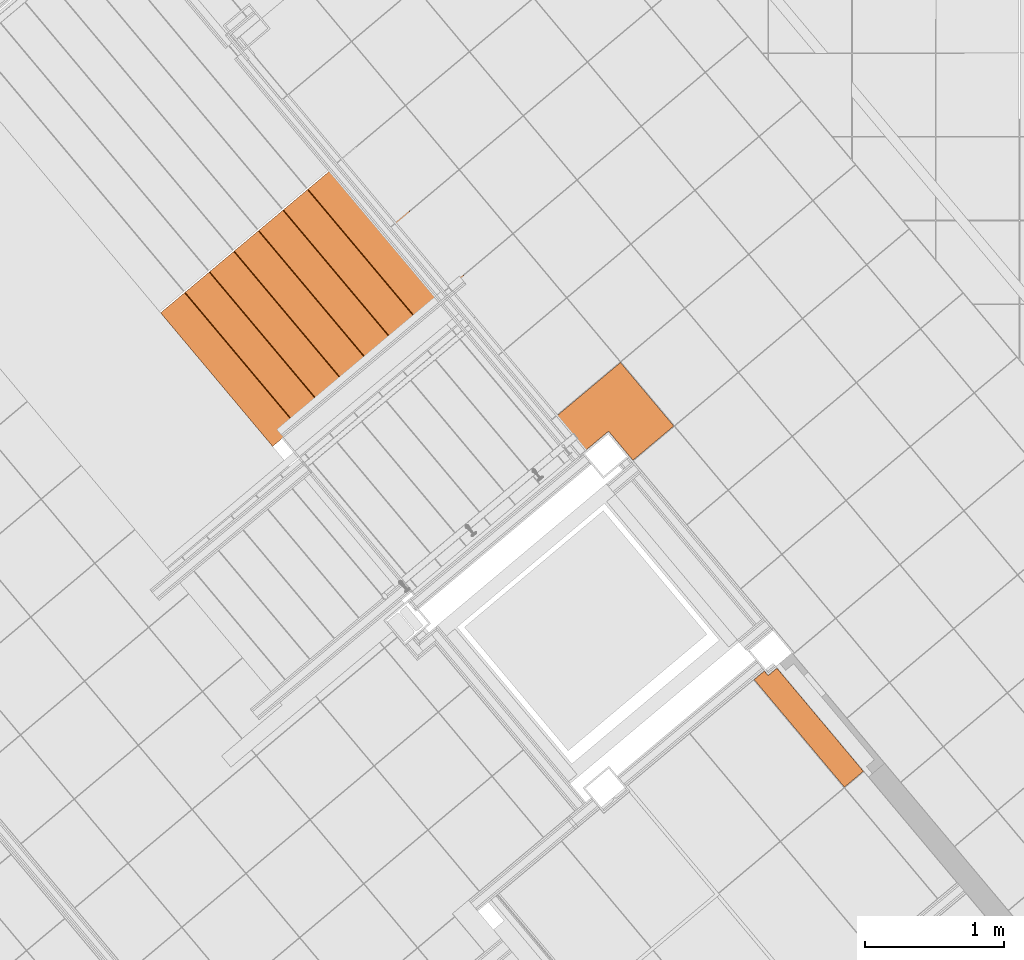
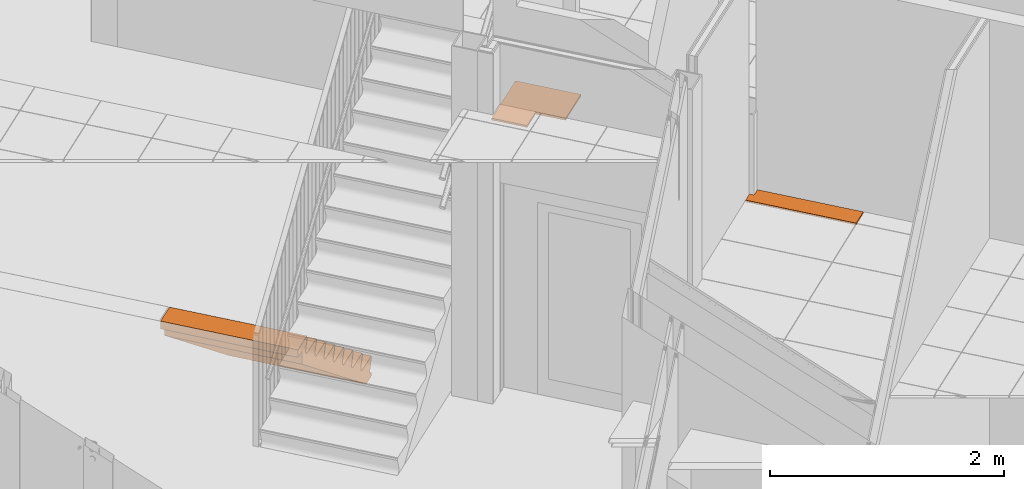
# One storey, part 318 of 338: 3 proxies, 2 elements without a shape of their own.
"""IFC2X3 building model written with IfcOpenShell, lengths in millimetres."""

from ifc_helpers import new_model, entity, si_unit, converted_unit, derived_unit, money_unit, direction, frame, origin_with_axes, place, context, subcontext, project, spatial, faceted_brep, material, type_object, element, aggregate, save


model = new_model("IFC2X3")

# Units and contexts
model_context = context("Model", 3, precision=0.01, world=origin_with_axes(), true_north=direction((0.0, 1.0)))
plan_context = context("Plan", 3, precision=0.01, world=origin_with_axes(), true_north=direction((0.0, 1.0)))
body_context = subcontext(model_context, "Body", "Model", "MODEL_VIEW")
ifc_project = project(units=[si_unit("LENGTHUNIT", "METRE", prefix="MILLI"), si_unit("AREAUNIT", "SQUARE_METRE"), si_unit("VOLUMEUNIT", "CUBIC_METRE"), converted_unit("PLANEANGLEUNIT", "DEGREE", entity("IfcPlaneAngleMeasure", 0.0174532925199), si_unit("PLANEANGLEUNIT", "RADIAN"), dimensions=[0, 0, 0, 0, 0, 0, 0]), money_unit("EUR"), converted_unit("TIMEUNIT", "Year", entity("IfcTimeMeasure", 31556926.0), si_unit("TIMEUNIT", "SECOND"), dimensions=[0, 0, 1, 0, 0, 0, 0]), si_unit("MASSUNIT", "GRAM", prefix="KILO"), si_unit("THERMODYNAMICTEMPERATUREUNIT", "DEGREE_CELSIUS"), si_unit("LUMINOUSINTENSITYUNIT", "LUMEN"), si_unit("ENERGYUNIT", "JOULE", prefix="MEGA"), derived_unit("THERMALCONDUCTANCEUNIT", [(si_unit("POWERUNIT", "WATT"), 1), (si_unit("LENGTHUNIT", "METRE"), -1), (si_unit("THERMODYNAMICTEMPERATUREUNIT", "KELVIN"), -1)]), derived_unit("SPECIFICHEATCAPACITYUNIT", [(si_unit("ENERGYUNIT", "JOULE"), 1), (si_unit("MASSUNIT", "GRAM", prefix="KILO"), -1), (si_unit("THERMODYNAMICTEMPERATUREUNIT", "KELVIN"), -1)]), derived_unit("MASSDENSITYUNIT", [(si_unit("MASSUNIT", "GRAM", prefix="KILO"), 1), (si_unit("VOLUMEUNIT", "CUBIC_METRE"), -1)])], contexts=[model_context, plan_context])

# Site, building, storey
site_placement = place(None, origin_with_axes())
site = spatial("IfcSite", under=ifc_project, at=site_placement, Name="Fortuinstraat Woensdrecht", CompositionType="ELEMENT")
building_placement = place(site_placement, origin_with_axes())
building = spatial("IfcBuilding", under=site, at=building_placement, Name="IKC Fortuna", CompositionType="ELEMENT")
storey_placement = place(building_placement, origin_with_axes())
storey = spatial("IfcBuildingStorey", under=building, at=storey_placement, Name="00 begane grond", CompositionType="ELEMENT", Elevation=0.0)

# Covering, proxy
covering_type = type_object("IfcCoveringType", Name="Curtain Wall Type", PredefinedType="CEILING")
covering_1_placement = place(storey_placement, frame((26804.4884552, -1724.43837499, 3010.0), z_axis=(0.0, 0.0, 1.0), x_axis=(1.0, 0.0, 0.0)))
covering_1 = element("IfcCovering", 1, at=covering_1_placement, inside=storey, type_object=covering_type, Name="45_Plafondafwerking_P04", PredefinedType="CEILING")
ifc_material = material(Name="Gipsplaat")
building_element_proxy_type_1 = type_object("IfcBuildingElementProxyType", Name="Distinct Panel 600 x 327 x 20", PredefinedType="NOTDEFINED")
proxy_1_placement = place(covering_1_placement, frame((-4772.79926893, 3775.76728654, 0.0), z_axis=(0.0, 0.0, 1.0), x_axis=(1.0, 0.0, 0.0)))
proxy_1 = element("IfcBuildingElementProxy", 2, at=proxy_1_placement, type_object=building_element_proxy_type_1, material=ifc_material, Name="__Panel-D", context=body_context, shape_type="Brep", body=[
    faceted_brep([(53.1541442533, 444.84749536, -10.0), (-402.642368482, 62.3889478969, -10.0), (-402.642368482, 62.3889478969, 9.99999999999), (53.1541442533, 444.84749536, 9.99999999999), (435.612704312, -10.9490047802, -10.0), (142.614046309, -256.803987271, -10.0), (-32.6621771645, -47.9178592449, -10.0), (-195.460031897, -184.521424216, -10.0), (-195.460031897, -184.521424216, 9.99999999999), (-32.6621771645, -47.9178592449, 9.99999999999), (142.614046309, -256.803987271, 9.99999999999), (435.612704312, -10.9490047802, 9.99999999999)], [[[0, 1, 2, 3]], [[0, 4, 5, 6, 7, 1]], [[1, 7, 8, 2]], [[3, 2, 8, 9, 10, 11]], [[4, 0, 3, 11]], [[5, 4, 11, 10]], [[6, 5, 10, 9]], [[7, 6, 9, 8]]]),
])
aggregate(covering_1, [proxy_1])

covering_2_placement = place(storey_placement, frame((21527.1932838, -1706.9023883, 2770.0), z_axis=(0.0, 0.0, 1.0), x_axis=(1.0, 0.0, 0.0)))
covering_2 = element("IfcCovering", 3, at=covering_2_placement, inside=storey, type_object=covering_type, Name="45_Plafondafwerking_P02a", PredefinedType="CEILING")
building_element_proxy_type_2 = type_object("IfcBuildingElementProxyType", Name="Distinct Panel 182 x 969 x 20", PredefinedType="NOTDEFINED")
proxy_2_placement = place(covering_2_placement, frame((1810.48754374, 1720.86229672, 38.6399753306), z_axis=(0.0, 0.0, 1.0), x_axis=(0.642787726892, -0.766044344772, 0.0)))
proxy_2 = element("IfcBuildingElementProxy", 4, at=proxy_2_placement, type_object=building_element_proxy_type_2, material=ifc_material, Name="__Panel-D", context=body_context, shape_type="Brep", body=[
    faceted_brep([(-306.495225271, 85.9803420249, -8.67727949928), (-306.495225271, 85.6724230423, 11.3203500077), (657.97682449, 85.6724186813, 11.3203499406), (657.97682449, 85.980337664, -8.67727956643), (-306.49521304, 3.48041512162, -9.947594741), (-306.49521304, 3.17249613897, 10.050034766), (-348.981601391, 3.17250151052, 10.0500348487), (-348.981622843, -91.8064959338, 8.58756969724), (657.97682349, -91.8064958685, 8.58756969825), (657.97682349, -91.4985768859, -11.4100598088), (-348.981622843, -91.4985769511, -11.4100598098), (-348.981601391, 3.48042049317, -9.94759465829)], [[[0, 1, 2, 3]], [[4, 5, 1, 0]], [[1, 5, 6, 7, 8, 2]], [[3, 2, 8, 9]], [[0, 3, 9, 10, 11, 4]], [[11, 6, 5, 4]], [[10, 7, 6, 11]], [[9, 8, 7, 10]]]),
])
aggregate(covering_2, [proxy_2])

# Proxy
building_element_proxy_type_3 = type_object("IfcBuildingElementProxyType", Name="Trapelement beton 25 KM", PredefinedType="NOTDEFINED")
proxy_3_placement = place(storey_placement, frame((20196.7322234, 4034.63435725, 0.0), z_axis=(0.0, 0.0, 1.0), x_axis=(-0.766044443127, -0.642787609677, 0.0)))
element("IfcBuildingElementProxy", 5, at=proxy_3_placement, inside=storey, type_object=building_element_proxy_type_3, Name="0_Building Element Proxy_T1.2", context=body_context, shape_type="Brep", body=[
    faceted_brep([(0.0, 0.0, -30.0), (0.0, 0.0, 0.0), (0.0, 1250.0, 0.0), (0.0, 1250.0, -30.0), (3.49953368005, 0.0, -7.71975380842e-06), (136.419515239, 0.0, -30.0), (296.846819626, 0.0, 96.423690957), (230.0, 0.0, 181.25), (10.0, 0.0, 181.25), (6.17316567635, 0.0, 180.488795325), (2.92893218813, 0.0, 178.321067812), (0.761204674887, 0.0, 175.076834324), (0.0, 0.0, 171.25), (0.0, 0.0, 156.95), (37.59, 0.0, 53.68), (38.7845888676, 0.0, 50.3920369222), (39.9999489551, 0.0, 43.4992984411), (39.9999335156, 0.0, 36.500231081), (38.7845430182, 0.0, 29.6074979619), (36.3907064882, 0.0, 23.0305312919), (32.8911594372, 0.0, 16.969168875), (28.3922338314, 0.0, 11.6075821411), (23.0306272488, 0.0, 7.10868019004), (16.9692493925, 0.0, 3.609159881), (10.3922721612, 0.0, 1.21535236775), (3.49953368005, 1250.0, -7.71975389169e-06), (0.0, 1250.0, 156.95), (0.0, 1250.0, 171.25), (0.761204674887, 1250.0, 175.076834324), (2.92893218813, 1250.0, 178.321067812), (6.17316567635, 1250.0, 180.488795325), (10.0, 1250.0, 181.25), (230.0, 1250.0, 181.25), (296.846819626, 1250.0, 96.423690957), (136.419515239, 1250.0, -30.0), (10.3922721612, 1250.0, 1.21535236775), (16.9692493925, 1250.0, 3.609159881), (23.0306272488, 1250.0, 7.10868019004), (28.3922338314, 1250.0, 11.6075821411), (32.8911594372, 1250.0, 16.969168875), (36.3907064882, 1250.0, 23.0305312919), (38.7845430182, 1250.0, 29.6074979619), (39.9999335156, 1250.0, 36.500231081), (39.9999489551, 1250.0, 43.4992984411), (38.7845888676, 1250.0, 50.3920369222), (37.59, 1250.0, 53.68)], [[[0, 1, 2, 3]], [[4, 1, 0, 5, 6, 7, 8, 9, 10, 11, 12, 13, 14, 15, 16, 17, 18, 19, 20, 21, 22, 23, 24]], [[1, 4, 25, 2]], [[26, 27, 28, 29, 30, 31, 32, 33, 34, 3, 2, 25, 35, 36, 37, 38, 39, 40, 41, 42, 43, 44, 45]], [[0, 3, 34, 5]], [[6, 5, 34, 33]], [[7, 6, 33, 32]], [[8, 7, 32, 31]], [[9, 8, 31, 30]], [[29, 10, 9, 30]], [[11, 10, 29, 28]], [[12, 11, 28, 27]], [[13, 12, 27, 26]], [[13, 26, 45, 14]], [[15, 14, 45, 44]], [[16, 15, 44, 43]], [[17, 16, 43, 42]], [[18, 17, 42, 41]], [[19, 18, 41, 40]], [[20, 19, 40, 39]], [[21, 20, 39, 38]], [[22, 21, 38, 37]], [[23, 22, 37, 36]], [[24, 23, 36, 35]], [[25, 4, 24, 35]]]),
    faceted_brep([(460.0, 1250.0, 362.5), (240.0, 1250.0, 362.5), (240.0, 0.0, 362.5), (460.0, 0.0, 362.5), (526.846819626, 1250.0, 277.673690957), (296.846819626, 1250.0, 96.423690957), (230.0, 1250.0, 181.25), (233.49953368, 1250.0, 181.24999228), (240.392272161, 1250.0, 182.465352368), (246.969249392, 1250.0, 184.859159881), (253.030627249, 1250.0, 188.35868019), (258.392233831, 1250.0, 192.857582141), (261.225007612, 1250.0, 196.25), (262.891159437, 1250.0, 198.219168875), (266.390706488, 1250.0, 204.280531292), (268.784543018, 1250.0, 210.857497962), (269.999933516, 1250.0, 217.750231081), (269.999948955, 1250.0, 224.749298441), (268.784588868, 1250.0, 231.642036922), (267.59, 1250.0, 234.93), (230.0, 1250.0, 338.2), (230.0, 1250.0, 352.5), (230.761204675, 1250.0, 356.326834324), (232.928932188, 1250.0, 359.571067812), (236.173165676, 1250.0, 361.738795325), (236.173165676, 0.0, 361.738795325), (232.928932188, 0.0, 359.571067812), (230.761204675, 0.0, 356.326834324), (230.0, 0.0, 352.5), (230.0, 0.0, 338.2), (267.59, 0.0, 234.93), (268.784588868, 0.0, 231.642036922), (269.999948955, 0.0, 224.749298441), (269.999933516, 0.0, 217.750231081), (268.784543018, 0.0, 210.857497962), (266.390706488, 0.0, 204.280531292), (262.891159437, 0.0, 198.219168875), (261.225007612, 0.0, 196.25), (258.392233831, 0.0, 192.857582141), (253.030627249, 0.0, 188.35868019), (246.969249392, 0.0, 184.859159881), (240.392272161, 0.0, 182.465352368), (233.49953368, 0.0, 181.24999228), (230.0, 0.0, 181.25), (296.846819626, 0.0, 96.423690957), (526.846819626, 0.0, 277.673690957)], [[[0, 1, 2, 3]], [[0, 4, 5, 6, 7, 8, 9, 10, 11, 12, 13, 14, 15, 16, 17, 18, 19, 20, 21, 22, 23, 24, 1]], [[1, 24, 25, 2]], [[3, 2, 25, 26, 27, 28, 29, 30, 31, 32, 33, 34, 35, 36, 37, 38, 39, 40, 41, 42, 43, 44, 45]], [[4, 0, 3, 45]], [[5, 4, 45, 44]], [[6, 5, 44, 43]], [[7, 6, 43, 42]], [[8, 7, 42, 41]], [[9, 8, 41, 40]], [[10, 9, 40, 39]], [[11, 10, 39, 38]], [[12, 11, 38, 37]], [[13, 12, 37, 36]], [[14, 13, 36, 35]], [[15, 14, 35, 34]], [[16, 15, 34, 33]], [[17, 16, 33, 32]], [[18, 17, 32, 31]], [[19, 18, 31, 30]], [[20, 19, 30, 29]], [[21, 20, 29, 28]], [[22, 21, 28, 27]], [[23, 22, 27, 26]], [[24, 23, 26, 25]]]),
    faceted_brep([(690.0, 1250.0, 543.75), (470.0, 1250.0, 543.75), (470.0, 0.0, 543.75), (690.0, 0.0, 543.75), (756.846819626, 1250.0, 458.923690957), (526.846819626, 1250.0, 277.673690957), (460.0, 1250.0, 362.5), (463.49953368, 1250.0, 362.49999228), (470.392272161, 1250.0, 363.715352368), (476.969249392, 1250.0, 366.109159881), (483.030627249, 1250.0, 369.60868019), (488.392233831, 1250.0, 374.107582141), (491.225007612, 1250.0, 377.5), (492.891159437, 1250.0, 379.469168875), (496.390706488, 1250.0, 385.530531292), (498.784543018, 1250.0, 392.107497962), (499.999933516, 1250.0, 399.000231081), (499.999948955, 1250.0, 405.999298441), (498.784588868, 1250.0, 412.892036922), (497.59, 1250.0, 416.18), (460.0, 1250.0, 519.45), (460.0, 1250.0, 533.75), (460.761204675, 1250.0, 537.576834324), (462.928932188, 1250.0, 540.821067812), (466.173165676, 1250.0, 542.988795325), (466.173165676, 0.0, 542.988795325), (462.928932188, 0.0, 540.821067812), (460.761204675, 0.0, 537.576834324), (460.0, 0.0, 533.75), (460.0, 0.0, 519.45), (497.59, 0.0, 416.18), (498.784588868, 0.0, 412.892036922), (499.999948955, 0.0, 405.999298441), (499.999933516, 0.0, 399.000231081), (498.784543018, 0.0, 392.107497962), (496.390706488, 0.0, 385.530531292), (492.891159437, 0.0, 379.469168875), (491.225007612, 0.0, 377.5), (488.392233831, 0.0, 374.107582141), (483.030627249, 0.0, 369.60868019), (476.969249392, 0.0, 366.109159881), (470.392272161, 0.0, 363.715352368), (463.49953368, 0.0, 362.49999228), (460.0, 0.0, 362.5), (526.846819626, 0.0, 277.673690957), (756.846819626, 0.0, 458.923690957)], [[[0, 1, 2, 3]], [[0, 4, 5, 6, 7, 8, 9, 10, 11, 12, 13, 14, 15, 16, 17, 18, 19, 20, 21, 22, 23, 24, 1]], [[1, 24, 25, 2]], [[3, 2, 25, 26, 27, 28, 29, 30, 31, 32, 33, 34, 35, 36, 37, 38, 39, 40, 41, 42, 43, 44, 45]], [[4, 0, 3, 45]], [[5, 4, 45, 44]], [[6, 5, 44, 43]], [[7, 6, 43, 42]], [[8, 7, 42, 41]], [[9, 8, 41, 40]], [[10, 9, 40, 39]], [[11, 10, 39, 38]], [[12, 11, 38, 37]], [[13, 12, 37, 36]], [[14, 13, 36, 35]], [[15, 14, 35, 34]], [[16, 15, 34, 33]], [[17, 16, 33, 32]], [[18, 17, 32, 31]], [[19, 18, 31, 30]], [[20, 19, 30, 29]], [[21, 20, 29, 28]], [[22, 21, 28, 27]], [[23, 22, 27, 26]], [[24, 23, 26, 25]]]),
    faceted_brep([(920.0, 1250.0, 725.0), (700.0, 1250.0, 725.0), (700.0, 0.0, 725.0), (920.0, 0.0, 725.0), (986.846819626, 1250.0, 640.173690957), (756.846819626, 1250.0, 458.923690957), (690.0, 1250.0, 543.75), (693.49953368, 1250.0, 543.74999228), (700.392272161, 1250.0, 544.965352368), (706.969249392, 1250.0, 547.359159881), (713.030627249, 1250.0, 550.85868019), (718.392233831, 1250.0, 555.357582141), (721.225007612, 1250.0, 558.75), (722.891159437, 1250.0, 560.719168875), (726.390706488, 1250.0, 566.780531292), (728.784543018, 1250.0, 573.357497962), (729.999933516, 1250.0, 580.250231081), (729.999948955, 1250.0, 587.249298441), (728.784588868, 1250.0, 594.142036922), (727.59, 1250.0, 597.43), (690.0, 1250.0, 700.7), (690.0, 1250.0, 715.0), (690.761204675, 1250.0, 718.826834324), (692.928932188, 1250.0, 722.071067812), (696.173165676, 1250.0, 724.238795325), (696.173165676, 0.0, 724.238795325), (692.928932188, 0.0, 722.071067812), (690.761204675, 0.0, 718.826834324), (690.0, 0.0, 715.0), (690.0, 0.0, 700.7), (727.59, 0.0, 597.43), (728.784588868, 0.0, 594.142036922), (729.999948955, 0.0, 587.249298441), (729.999933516, 0.0, 580.250231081), (728.784543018, 0.0, 573.357497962), (726.390706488, 0.0, 566.780531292), (722.891159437, 0.0, 560.719168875), (721.225007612, 0.0, 558.75), (718.392233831, 0.0, 555.357582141), (713.030627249, 0.0, 550.85868019), (706.969249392, 0.0, 547.359159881), (700.392272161, 0.0, 544.965352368), (693.49953368, 0.0, 543.74999228), (690.0, 0.0, 543.75), (756.846819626, 0.0, 458.923690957), (986.846819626, 0.0, 640.173690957)], [[[0, 1, 2, 3]], [[0, 4, 5, 6, 7, 8, 9, 10, 11, 12, 13, 14, 15, 16, 17, 18, 19, 20, 21, 22, 23, 24, 1]], [[1, 24, 25, 2]], [[3, 2, 25, 26, 27, 28, 29, 30, 31, 32, 33, 34, 35, 36, 37, 38, 39, 40, 41, 42, 43, 44, 45]], [[4, 0, 3, 45]], [[5, 4, 45, 44]], [[6, 5, 44, 43]], [[7, 6, 43, 42]], [[8, 7, 42, 41]], [[9, 8, 41, 40]], [[10, 9, 40, 39]], [[11, 10, 39, 38]], [[12, 11, 38, 37]], [[13, 12, 37, 36]], [[14, 13, 36, 35]], [[15, 14, 35, 34]], [[16, 15, 34, 33]], [[17, 16, 33, 32]], [[18, 17, 32, 31]], [[19, 18, 31, 30]], [[20, 19, 30, 29]], [[21, 20, 29, 28]], [[22, 21, 28, 27]], [[23, 22, 27, 26]], [[24, 23, 26, 25]]]),
    faceted_brep([(1150.0, 1250.0, 906.25), (930.0, 1250.0, 906.25), (930.0, 0.0, 906.25), (1150.0, 0.0, 906.25), (1216.84681963, 1250.0, 821.423690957), (986.846819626, 1250.0, 640.173690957), (920.0, 1250.0, 725.0), (923.49953368, 1250.0, 724.99999228), (930.392272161, 1250.0, 726.215352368), (936.969249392, 1250.0, 728.609159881), (943.030627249, 1250.0, 732.10868019), (948.392233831, 1250.0, 736.607582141), (951.225007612, 1250.0, 740.0), (952.891159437, 1250.0, 741.969168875), (956.390706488, 1250.0, 748.030531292), (958.784543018, 1250.0, 754.607497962), (959.999933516, 1250.0, 761.500231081), (959.999948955, 1250.0, 768.499298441), (958.784588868, 1250.0, 775.392036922), (957.59, 1250.0, 778.68), (920.0, 1250.0, 881.95), (920.0, 1250.0, 896.25), (920.761204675, 1250.0, 900.076834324), (922.928932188, 1250.0, 903.321067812), (926.173165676, 1250.0, 905.488795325), (926.173165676, 0.0, 905.488795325), (922.928932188, 0.0, 903.321067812), (920.761204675, 0.0, 900.076834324), (920.0, 0.0, 896.25), (920.0, 0.0, 881.95), (957.59, 0.0, 778.68), (958.784588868, 0.0, 775.392036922), (959.999948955, 0.0, 768.499298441), (959.999933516, 0.0, 761.500231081), (958.784543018, 0.0, 754.607497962), (956.390706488, 0.0, 748.030531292), (952.891159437, 0.0, 741.969168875), (951.225007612, 0.0, 740.0), (948.392233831, 0.0, 736.607582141), (943.030627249, 0.0, 732.10868019), (936.969249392, 0.0, 728.609159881), (930.392272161, 0.0, 726.215352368), (923.49953368, 0.0, 724.99999228), (920.0, 0.0, 725.0), (986.846819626, 0.0, 640.173690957), (1216.84681963, 0.0, 821.423690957)], [[[0, 1, 2, 3]], [[0, 4, 5, 6, 7, 8, 9, 10, 11, 12, 13, 14, 15, 16, 17, 18, 19, 20, 21, 22, 23, 24, 1]], [[1, 24, 25, 2]], [[3, 2, 25, 26, 27, 28, 29, 30, 31, 32, 33, 34, 35, 36, 37, 38, 39, 40, 41, 42, 43, 44, 45]], [[4, 0, 3, 45]], [[5, 4, 45, 44]], [[6, 5, 44, 43]], [[7, 6, 43, 42]], [[8, 7, 42, 41]], [[9, 8, 41, 40]], [[10, 9, 40, 39]], [[11, 10, 39, 38]], [[12, 11, 38, 37]], [[13, 12, 37, 36]], [[14, 13, 36, 35]], [[15, 14, 35, 34]], [[16, 15, 34, 33]], [[17, 16, 33, 32]], [[18, 17, 32, 31]], [[19, 18, 31, 30]], [[20, 19, 30, 29]], [[21, 20, 29, 28]], [[22, 21, 28, 27]], [[23, 22, 27, 26]], [[24, 23, 26, 25]]]),
    faceted_brep([(1380.0, 1250.0, 1087.5), (1160.0, 1250.0, 1087.5), (1160.0, 0.0, 1087.5), (1380.0, 0.0, 1087.5), (1446.84681963, 1250.0, 1002.67369096), (1216.84681963, 1250.0, 821.423690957), (1150.0, 1250.0, 906.25), (1153.49953368, 1250.0, 906.24999228), (1160.39227216, 1250.0, 907.465352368), (1166.96924939, 1250.0, 909.859159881), (1173.03062725, 1250.0, 913.35868019), (1178.39223383, 1250.0, 917.857582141), (1181.22500761, 1250.0, 921.25), (1182.89115944, 1250.0, 923.219168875), (1186.39070649, 1250.0, 929.280531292), (1188.78454302, 1250.0, 935.857497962), (1189.99993352, 1250.0, 942.750231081), (1189.99994896, 1250.0, 949.749298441), (1188.78458887, 1250.0, 956.642036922), (1187.59, 1250.0, 959.93), (1150.0, 1250.0, 1063.2), (1150.0, 1250.0, 1077.5), (1150.76120467, 1250.0, 1081.32683432), (1152.92893219, 1250.0, 1084.57106781), (1156.17316568, 1250.0, 1086.73879533), (1156.17316568, 0.0, 1086.73879533), (1152.92893219, 0.0, 1084.57106781), (1150.76120467, 0.0, 1081.32683432), (1150.0, 0.0, 1077.5), (1150.0, 0.0, 1063.2), (1187.59, 0.0, 959.93), (1188.78458887, 0.0, 956.642036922), (1189.99994896, 0.0, 949.749298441), (1189.99993352, 0.0, 942.750231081), (1188.78454302, 0.0, 935.857497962), (1186.39070649, 0.0, 929.280531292), (1182.89115944, 0.0, 923.219168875), (1181.22500761, 0.0, 921.25), (1178.39223383, 0.0, 917.857582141), (1173.03062725, 0.0, 913.35868019), (1166.96924939, 0.0, 909.859159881), (1160.39227216, 0.0, 907.465352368), (1153.49953368, 0.0, 906.24999228), (1150.0, 0.0, 906.25), (1216.84681963, 0.0, 821.423690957), (1446.84681963, 0.0, 1002.67369096)], [[[0, 1, 2, 3]], [[0, 4, 5, 6, 7, 8, 9, 10, 11, 12, 13, 14, 15, 16, 17, 18, 19, 20, 21, 22, 23, 24, 1]], [[1, 24, 25, 2]], [[3, 2, 25, 26, 27, 28, 29, 30, 31, 32, 33, 34, 35, 36, 37, 38, 39, 40, 41, 42, 43, 44, 45]], [[4, 0, 3, 45]], [[5, 4, 45, 44]], [[6, 5, 44, 43]], [[7, 6, 43, 42]], [[8, 7, 42, 41]], [[9, 8, 41, 40]], [[10, 9, 40, 39]], [[11, 10, 39, 38]], [[12, 11, 38, 37]], [[13, 12, 37, 36]], [[14, 13, 36, 35]], [[15, 14, 35, 34]], [[16, 15, 34, 33]], [[17, 16, 33, 32]], [[18, 17, 32, 31]], [[19, 18, 31, 30]], [[20, 19, 30, 29]], [[21, 20, 29, 28]], [[22, 21, 28, 27]], [[23, 22, 27, 26]], [[24, 23, 26, 25]]]),
    faceted_brep([(1610.0, 1250.0, 1268.75), (1390.0, 1250.0, 1268.75), (1390.0, 0.0, 1268.75), (1610.0, 0.0, 1268.75), (1676.84681963, 1250.0, 1183.92369096), (1446.84681963, 1250.0, 1002.67369096), (1380.0, 1250.0, 1087.5), (1383.49953368, 1250.0, 1087.49999228), (1390.39227216, 1250.0, 1088.71535237), (1396.96924939, 1250.0, 1091.10915988), (1403.03062725, 1250.0, 1094.60868019), (1408.39223383, 1250.0, 1099.10758214), (1411.22500761, 1250.0, 1102.5), (1412.89115944, 1250.0, 1104.46916888), (1416.39070649, 1250.0, 1110.53053129), (1418.78454302, 1250.0, 1117.10749796), (1419.99993352, 1250.0, 1124.00023108), (1419.99994896, 1250.0, 1130.99929844), (1418.78458887, 1250.0, 1137.89203692), (1417.59, 1250.0, 1141.18), (1380.0, 1250.0, 1244.45), (1380.0, 1250.0, 1258.75), (1380.76120467, 1250.0, 1262.57683432), (1382.92893219, 1250.0, 1265.82106781), (1386.17316568, 1250.0, 1267.98879533), (1386.17316568, 0.0, 1267.98879533), (1382.92893219, 0.0, 1265.82106781), (1380.76120467, 0.0, 1262.57683432), (1380.0, 0.0, 1258.75), (1380.0, 0.0, 1244.45), (1417.59, 0.0, 1141.18), (1418.78458887, 0.0, 1137.89203692), (1419.99994896, 0.0, 1130.99929844), (1419.99993352, 0.0, 1124.00023108), (1418.78454302, 0.0, 1117.10749796), (1416.39070649, 0.0, 1110.53053129), (1412.89115944, 0.0, 1104.46916888), (1411.22500761, 0.0, 1102.5), (1408.39223383, 0.0, 1099.10758214), (1403.03062725, 0.0, 1094.60868019), (1396.96924939, 0.0, 1091.10915988), (1390.39227216, 0.0, 1088.71535237), (1383.49953368, 0.0, 1087.49999228), (1380.0, 0.0, 1087.5), (1446.84681963, 0.0, 1002.67369096), (1676.84681963, 0.0, 1183.92369096)], [[[0, 1, 2, 3]], [[0, 4, 5, 6, 7, 8, 9, 10, 11, 12, 13, 14, 15, 16, 17, 18, 19, 20, 21, 22, 23, 24, 1]], [[1, 24, 25, 2]], [[3, 2, 25, 26, 27, 28, 29, 30, 31, 32, 33, 34, 35, 36, 37, 38, 39, 40, 41, 42, 43, 44, 45]], [[4, 0, 3, 45]], [[5, 4, 45, 44]], [[6, 5, 44, 43]], [[7, 6, 43, 42]], [[8, 7, 42, 41]], [[9, 8, 41, 40]], [[10, 9, 40, 39]], [[11, 10, 39, 38]], [[12, 11, 38, 37]], [[13, 12, 37, 36]], [[14, 13, 36, 35]], [[15, 14, 35, 34]], [[16, 15, 34, 33]], [[17, 16, 33, 32]], [[18, 17, 32, 31]], [[19, 18, 31, 30]], [[20, 19, 30, 29]], [[21, 20, 29, 28]], [[22, 21, 28, 27]], [[23, 22, 27, 26]], [[24, 23, 26, 25]]]),
    faceted_brep([(1740.0, 1250.0, 1233.69114288), (1740.0, 1250.0, 1370.0), (1740.0, 0.0, 1370.0), (1740.0, 0.0, 1233.69114288), (1676.84681963, 1250.0, 1183.92369096), (1610.0, 1250.0, 1268.75), (1613.49953368, 1250.0, 1268.74999228), (1620.39227216, 1250.0, 1269.96535237), (1626.96924939, 1250.0, 1272.35915988), (1633.03062725, 1250.0, 1275.85868019), (1638.39223383, 1250.0, 1280.35758214), (1641.22500761, 1250.0, 1283.75), (1642.89115944, 1250.0, 1285.71916888), (1646.39070649, 1250.0, 1291.78053129), (1648.78454302, 1250.0, 1298.35749796), (1649.99993352, 1250.0, 1305.25023108), (1649.99994896, 1250.0, 1312.24929844), (1648.78458887, 1250.0, 1319.14203692), (1647.59, 1250.0, 1322.43), (1610.0, 1250.0, 1425.7), (1610.0, 1250.0, 1440.0), (1610.76120467, 1250.0, 1443.82683432), (1612.92893219, 1250.0, 1447.07106781), (1616.17316568, 1250.0, 1449.23879533), (1620.0, 1250.0, 1450.0), (1840.0, 1250.0, 1450.0), (1840.0, 1250.0, 1370.0), (1840.0, 0.0, 1370.0), (1840.0, 0.0, 1450.0), (1620.0, 0.0, 1450.0), (1616.17316568, 0.0, 1449.23879533), (1612.92893219, 0.0, 1447.07106781), (1610.76120467, 0.0, 1443.82683432), (1610.0, 0.0, 1440.0), (1610.0, 0.0, 1425.7), (1647.59, 0.0, 1322.43), (1648.78458887, 0.0, 1319.14203692), (1649.99994896, 0.0, 1312.24929844), (1649.99993352, 0.0, 1305.25023108), (1648.78454302, 0.0, 1298.35749796), (1646.39070649, 0.0, 1291.78053129), (1642.89115944, 0.0, 1285.71916888), (1641.22500761, 0.0, 1283.75), (1638.39223383, 0.0, 1280.35758214), (1633.03062725, 0.0, 1275.85868019), (1626.96924939, 0.0, 1272.35915988), (1620.39227216, 0.0, 1269.96535237), (1613.49953368, 0.0, 1268.74999228), (1610.0, 0.0, 1268.75), (1676.84681963, 0.0, 1183.92369096)], [[[0, 1, 2, 3]], [[0, 4, 5, 6, 7, 8, 9, 10, 11, 12, 13, 14, 15, 16, 17, 18, 19, 20, 21, 22, 23, 24, 25, 26, 1]], [[1, 26, 27, 2]], [[3, 2, 27, 28, 29, 30, 31, 32, 33, 34, 35, 36, 37, 38, 39, 40, 41, 42, 43, 44, 45, 46, 47, 48, 49]], [[4, 0, 3, 49]], [[5, 4, 49, 48]], [[6, 5, 48, 47]], [[7, 6, 47, 46]], [[8, 7, 46, 45]], [[9, 8, 45, 44]], [[10, 9, 44, 43]], [[11, 10, 43, 42]], [[12, 11, 42, 41]], [[13, 12, 41, 40]], [[14, 13, 40, 39]], [[15, 14, 39, 38]], [[16, 15, 38, 37]], [[17, 16, 37, 36]], [[18, 17, 36, 35]], [[19, 18, 35, 34]], [[20, 19, 34, 33]], [[21, 20, 33, 32]], [[22, 21, 32, 31]], [[23, 22, 31, 30]], [[24, 23, 30, 29]], [[25, 24, 29, 28]], [[26, 25, 28, 27]]]),
])

save(model, "model.ifc")
